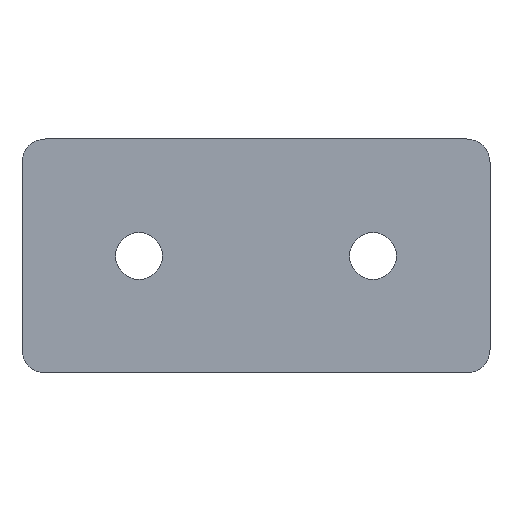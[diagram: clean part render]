
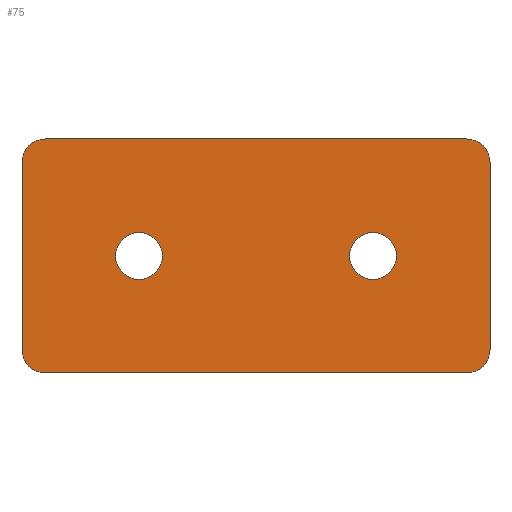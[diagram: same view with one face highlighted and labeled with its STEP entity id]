
A CAD part, front view. The second image highlights one B-rep face of the part: STEP entity #75.
In plain terms, the highlighted planar face has unit normal (0, -1, 0).
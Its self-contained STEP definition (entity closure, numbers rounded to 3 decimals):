
#75 = ADVANCED_FACE( '', ( #88, #89, #90 ), #91, .F. );
#88 = FACE_BOUND( '', #118, .T. );
#89 = FACE_BOUND( '', #119, .T. );
#90 = FACE_OUTER_BOUND( '', #120, .T. );
#91 = PLANE( '', #121 );
#118 = EDGE_LOOP( '', ( #148 ) );
#119 = EDGE_LOOP( '', ( #149 ) );
#120 = EDGE_LOOP( '', ( #150, #151, #152, #153, #154, #155, #156, #157 ) );
#121 = AXIS2_PLACEMENT_3D( '', #158, #159, #160 );
#148 = ORIENTED_EDGE( '', *, *, #240, .F. );
#149 = ORIENTED_EDGE( '', *, *, #241, .F. );
#150 = ORIENTED_EDGE( '', *, *, #242, .F. );
#151 = ORIENTED_EDGE( '', *, *, #243, .F. );
#152 = ORIENTED_EDGE( '', *, *, #244, .F. );
#153 = ORIENTED_EDGE( '', *, *, #245, .F. );
#154 = ORIENTED_EDGE( '', *, *, #246, .F. );
#155 = ORIENTED_EDGE( '', *, *, #247, .F. );
#156 = ORIENTED_EDGE( '', *, *, #248, .F. );
#157 = ORIENTED_EDGE( '', *, *, #249, .F. );
#158 = CARTESIAN_POINT( '', ( -27., 0., -12. ) );
#159 = DIRECTION( '', ( 0., 1., 0. ) );
#160 = DIRECTION( '', ( 0., 0., 1. ) );
#240 = EDGE_CURVE( '', #268, #268, #269, .T. );
#241 = EDGE_CURVE( '', #270, #270, #271, .T. );
#242 = EDGE_CURVE( '', #272, #273, #274, .T. );
#243 = EDGE_CURVE( '', #275, #272, #276, .T. );
#244 = EDGE_CURVE( '', #277, #275, #278, .T. );
#245 = EDGE_CURVE( '', #279, #277, #280, .T. );
#246 = EDGE_CURVE( '', #281, #279, #282, .T. );
#247 = EDGE_CURVE( '', #283, #281, #284, .T. );
#248 = EDGE_CURVE( '', #285, #283, #286, .T. );
#249 = EDGE_CURVE( '', #273, #285, #287, .T. );
#268 = VERTEX_POINT( '', #316 );
#269 = CIRCLE( '', #317, 3. );
#270 = VERTEX_POINT( '', #318 );
#271 = CIRCLE( '', #319, 3. );
#272 = VERTEX_POINT( '', #320 );
#273 = VERTEX_POINT( '', #321 );
#274 = CIRCLE( '', #322, 3. );
#275 = VERTEX_POINT( '', #323 );
#276 = LINE( '', #324, #325 );
#277 = VERTEX_POINT( '', #326 );
#278 = CIRCLE( '', #327, 3. );
#279 = VERTEX_POINT( '', #328 );
#280 = LINE( '', #329, #330 );
#281 = VERTEX_POINT( '', #331 );
#282 = CIRCLE( '', #332, 3. );
#283 = VERTEX_POINT( '', #333 );
#284 = LINE( '', #334, #335 );
#285 = VERTEX_POINT( '', #336 );
#286 = CIRCLE( '', #337, 3. );
#287 = LINE( '', #338, #339 );
#316 = CARTESIAN_POINT( '', ( -15., 0., -3. ) );
#317 = AXIS2_PLACEMENT_3D( '', #380, #381, #382 );
#318 = CARTESIAN_POINT( '', ( 15., 0., -3. ) );
#319 = AXIS2_PLACEMENT_3D( '', #383, #384, #385 );
#320 = CARTESIAN_POINT( '', ( -27., 0., -15. ) );
#321 = CARTESIAN_POINT( '', ( -30., 0., -12. ) );
#322 = AXIS2_PLACEMENT_3D( '', #386, #387, #388 );
#323 = CARTESIAN_POINT( '', ( 27., 0., -15. ) );
#324 = CARTESIAN_POINT( '', ( 27., 0., -15. ) );
#325 = VECTOR( '', #389, 1000. );
#326 = CARTESIAN_POINT( '', ( 30., 0., -12. ) );
#327 = AXIS2_PLACEMENT_3D( '', #390, #391, #392 );
#328 = CARTESIAN_POINT( '', ( 30., 0., 12. ) );
#329 = CARTESIAN_POINT( '', ( 30., 0., 12. ) );
#330 = VECTOR( '', #393, 1000. );
#331 = CARTESIAN_POINT( '', ( 27., 0., 15. ) );
#332 = AXIS2_PLACEMENT_3D( '', #394, #395, #396 );
#333 = CARTESIAN_POINT( '', ( -27., 0., 15. ) );
#334 = CARTESIAN_POINT( '', ( -27., 0., 15. ) );
#335 = VECTOR( '', #397, 1000. );
#336 = CARTESIAN_POINT( '', ( -30., 0., 12. ) );
#337 = AXIS2_PLACEMENT_3D( '', #398, #399, #400 );
#338 = CARTESIAN_POINT( '', ( -30., 0., -12. ) );
#339 = VECTOR( '', #401, 1000. );
#380 = CARTESIAN_POINT( '', ( -15., 0., 0. ) );
#381 = DIRECTION( '', ( 0., -1., 0. ) );
#382 = DIRECTION( '', ( 0., 0., -1. ) );
#383 = CARTESIAN_POINT( '', ( 15., 0., 0. ) );
#384 = DIRECTION( '', ( 0., -1., 0. ) );
#385 = DIRECTION( '', ( 0., 0., -1. ) );
#386 = CARTESIAN_POINT( '', ( -27., 0., -12. ) );
#387 = DIRECTION( '', ( 0., 1., 0. ) );
#388 = DIRECTION( '', ( 1., 0., 0. ) );
#389 = DIRECTION( '', ( -1., 0., 0. ) );
#390 = CARTESIAN_POINT( '', ( 27., 0., -12. ) );
#391 = DIRECTION( '', ( 0., 1., 0. ) );
#392 = DIRECTION( '', ( 1., 0., 0. ) );
#393 = DIRECTION( '', ( 0., 0., -1. ) );
#394 = CARTESIAN_POINT( '', ( 27., 0., 12. ) );
#395 = DIRECTION( '', ( 0., 1., 0. ) );
#396 = DIRECTION( '', ( 1., 0., 0. ) );
#397 = DIRECTION( '', ( 1., 0., 0. ) );
#398 = CARTESIAN_POINT( '', ( -27., 0., 12. ) );
#399 = DIRECTION( '', ( 0., 1., 0. ) );
#400 = DIRECTION( '', ( 1., 0., 0. ) );
#401 = DIRECTION( '', ( 0., 0., 1. ) );
